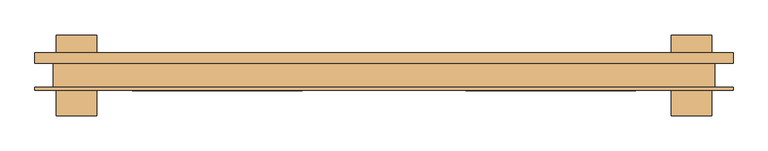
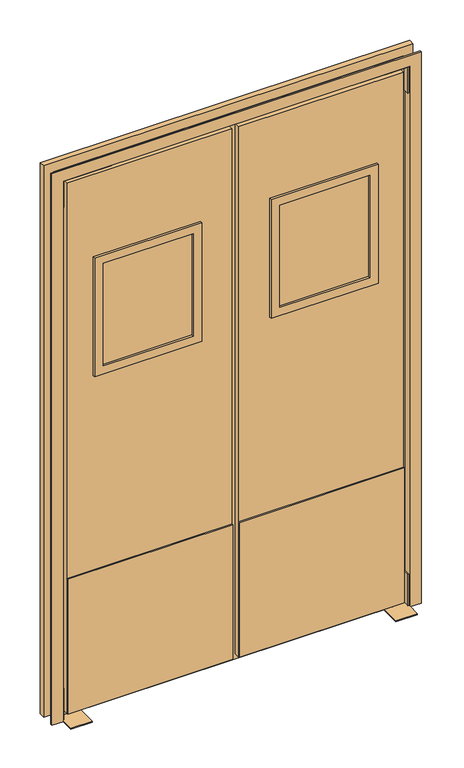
"""IFC4 building model written with IfcOpenShell, lengths in millimetres: door geometry, 両開きスイングドア_窓付_FCG : W1215xH2005xt40."""

from ifc_helpers import new_model, si_unit, point, frame, frame_2d, origin, place, context, project, spatial, polyline, circle_curve, trimmed, segment, composite_curve, outline, extrude, faceted_brep, source, transform, mapped, element, save


def door_559ab057(model_context):
    return source(origin(), model_context, "Body", "SolidModel", [
        extrude(outline(polyline([(0.0, 607.5), (2005.0, 607.5), (2005.0, -607.5), (0.0, -607.5), (0.0, 607.5)]), holes=[polyline([(20.0, 590.5), (20.0, 11.0), (1985.0, 11.0), (1985.0, 590.5), (20.0, 590.5)]), polyline([(1985.0, -11.0), (20.0, -11.0), (20.0, -590.5), (1985.0, -590.5), (1985.0, -11.0)])]), frame((0.0, -1.0, 0.0), z_axis=(0.0, 1.0, 0.0), x_axis=(0.0, 0.0, 1.0)), (0.0, 0.0, 1.0), 2.0),
        faceted_brep([(-607.5, -28.000005, 0.0), (-647.499995, -28.000005, 0.0), (-647.499995, -22.0, 0.0), (-613.5, -22.0, 0.0), (-613.5, 22.0, 0.0), (-647.499995, 22.0, 0.0), (-647.499995, 42.0, 0.0), (-607.5, 42.0, 0.0), (-607.5, -28.000005, 2005.0), (607.5, -28.000005, 2005.0), (607.5, -28.000005, 0.0), (647.499995, -28.000005, 0.0), (647.499995, -28.000005, 2044.999995), (-647.499995, -28.000005, 2044.999995), (-647.499995, -22.0, 2044.999995), (647.499995, -22.0, 2044.999995), (647.499995, -22.0, 0.0), (613.5, -22.0, 0.0), (613.5, -22.0, 2011.0), (-613.5, -22.0, 2011.0), (-613.5, 22.0, 2011.0), (613.5, 22.0, 2011.0), (613.5, 22.0, 0.0), (647.499995, 22.0, 0.0), (647.499995, 22.0, 2044.999995), (-647.499995, 22.0, 2044.999995), (-647.499995, 42.0, 2044.999995), (647.499995, 42.0, 2044.999995), (647.499995, 42.0, 0.0), (607.5, 42.0, 0.0), (607.5, 42.0, 2005.0), (-607.5, 42.0, 2005.0)], [[[0, 1, 2, 3, 4, 5, 6, 7]], [[1, 0, 8, 9, 10, 11, 12, 13]], [[2, 1, 13, 14]], [[3, 2, 14, 15, 16, 17, 18, 19]], [[4, 3, 19, 20]], [[5, 4, 20, 21, 22, 23, 24, 25]], [[6, 5, 25, 26]], [[7, 6, 26, 27, 28, 29, 30, 31]], [[0, 7, 31, 8]], [[9, 30, 29, 10]], [[10, 29, 28, 23, 22, 17, 16, 11]], [[15, 12, 11, 16]], [[21, 18, 17, 22]], [[27, 24, 23, 28]], [[20, 19, 18, 21]], [[26, 25, 24, 27]], [[8, 31, 30, 9]], [[14, 13, 12, 15]]]),
        extrude(outline(polyline([(-152.0, -20.0), (-467.0, -20.0), (-467.0, -15.0), (-152.0, -15.0), (-152.0, -20.0)])), frame((0.0, 0.0, 1270.0), z_axis=(0.0, 0.0, 1.0), x_axis=(1.0, 0.0, 0.0)), (0.0, 0.0, 1.0), 380.0),
        extrude(outline(polyline([(467.0, -20.0), (152.0, -20.0), (152.0, -15.0), (467.0, -15.0), (467.0, -20.0)])), frame((0.0, 0.0, 1270.0), z_axis=(0.0, 0.0, 1.0), x_axis=(1.0, 0.0, 0.0)), (0.0, 0.0, 1.0), 380.0),
        extrude(outline(polyline([(152.0, 20.0), (467.0, 20.0), (467.0, 15.0), (152.0, 15.0), (152.0, 20.0)])), frame((0.0, 0.0, 1270.0), z_axis=(0.0, 0.0, 1.0), x_axis=(1.0, 0.0, 0.0)), (0.0, 0.0, 1.0), 380.0),
        extrude(outline(polyline([(-467.0, 20.0), (-152.0, 20.0), (-152.0, 15.0), (-467.0, 15.0), (-467.0, 20.0)])), frame((0.0, 0.0, 1270.0), z_axis=(0.0, 0.0, 1.0), x_axis=(1.0, 0.0, 0.0)), (0.0, 0.0, 1.0), 380.0),
        extrude(outline(polyline([(1240.0, 122.0), (1240.0, 497.0), (1680.0, 497.0), (1680.0, 122.0), (1240.0, 122.0)]), holes=[polyline([(1650.0, 152.0), (1650.0, 467.0), (1270.0, 467.0), (1270.0, 152.0), (1650.0, 152.0)])]), frame((0.0, -28.0, 0.0), z_axis=(0.0, 1.0, 0.0), x_axis=(0.0, 0.0, 1.0)), (0.0, 0.0, 1.0), 56.0),
        extrude(outline(polyline([(1680.0, -122.0), (1680.0, -497.0), (1240.0, -497.0), (1240.0, -122.0), (1680.0, -122.0)]), holes=[polyline([(1270.0, -152.0), (1270.0, -467.0), (1650.0, -467.0), (1650.0, -152.0), (1270.0, -152.0)])]), frame((0.0, -28.0, 0.0), z_axis=(0.0, 1.0, 0.0), x_axis=(0.0, 0.0, 1.0)), (0.0, 0.0, 1.0), 56.0),
        extrude(outline(polyline([(1985.0, 11.0), (20.0, 11.0), (20.0, 590.5), (1985.0, 590.5), (1985.0, 11.0)]), holes=[polyline([(1240.0, 122.0), (1680.0, 122.0), (1680.0, 497.0), (1240.0, 497.0), (1240.0, 122.0)])]), frame((0.0, -20.0, 0.0), z_axis=(0.0, 1.0, 0.0), x_axis=(0.0, 0.0, 1.0)), (0.0, 0.0, 1.0), 40.0),
        extrude(outline(polyline([(1985.0, -11.0), (1985.0, -590.5), (20.0, -590.5), (20.0, -11.0), (1985.0, -11.0)]), holes=[polyline([(1240.0, -122.0), (1240.0, -497.0), (1680.0, -497.0), (1680.0, -122.0), (1240.0, -122.0)])]), frame((0.0, -20.0, 0.0), z_axis=(0.0, 1.0, 0.0), x_axis=(0.0, 0.0, 1.0)), (0.0, 0.0, 1.0), 40.0),
        extrude(outline(polyline([(2001.00012, 437.49968), (2001.00012, 603.49982), (1905.00036, 603.49982), (1905.00036, 607.5), (2005.0, 607.5), (2005.0, 437.49968), (2001.00012, 437.49968)])), frame((0.0, -25.0, 0.0), z_axis=(0.0, 1.0, 0.0), x_axis=(0.0, 0.0, 1.0)), (0.0, 0.0, 1.0), 50.0),
        extrude(outline(polyline([(2001.00012, -437.49968), (2005.0, -437.49968), (2005.0, -607.5), (1905.00036, -607.5), (1905.00036, -603.49982), (2001.00012, -603.49982), (2001.00012, -437.49968)])), frame((0.0, -25.0, 0.0), z_axis=(0.0, 1.0, 0.0), x_axis=(0.0, 0.0, 1.0)), (0.0, 0.0, 1.0), 50.0),
        extrude(outline(composite_curve([segment(trimmed(circle_curve(frame_2d((-558.999995, 0.0)), 6.5), [point((-558.999995, -6.5))], [point((-558.999995, 6.5))], False, "CARTESIAN"), True, "CONTINUOUS"), segment(trimmed(circle_curve(frame_2d((-558.999995, 0.0)), 6.5), [point((-558.999995, 6.5))], [point((-558.999995, -6.5))], False, "CARTESIAN"), True, "CONTINUOUS")], self_intersect=False)), frame((0.0, 0.0, 1985.0), z_axis=(0.0, 0.0, 1.0), x_axis=(1.0, 0.0, 0.0)), (0.0, 0.0, 1.0), 16.00012),
        extrude(outline(composite_curve([segment(trimmed(circle_curve(frame_2d((558.999995, 0.0)), 6.5), [point((558.999995, -6.5))], [point((558.999995, 6.5))], False, "CARTESIAN"), True, "CONTINUOUS"), segment(trimmed(circle_curve(frame_2d((558.999995, 0.0)), 6.5), [point((558.999995, 6.5))], [point((558.999995, -6.5))], False, "CARTESIAN"), True, "CONTINUOUS")], self_intersect=False)), frame((0.0, 0.0, 1985.0), z_axis=(0.0, 0.0, 1.0), x_axis=(1.0, 0.0, 0.0)), (0.0, 0.0, 1.0), 16.00012),
        extrude(outline(composite_curve([segment(trimmed(circle_curve(frame_2d((558.999995, 0.0)), 6.5), [point((552.499995, 0.0))], [point((565.499995, 0.0))], False, "CARTESIAN"), True, "CONTINUOUS"), segment(trimmed(circle_curve(frame_2d((558.999995, 0.0)), 6.5), [point((565.499995, 0.0))], [point((552.499995, 0.0))], False, "CARTESIAN"), True, "CONTINUOUS")], self_intersect=False)), frame((0.0, 0.0, 4.0), z_axis=(0.0, 0.0, 1.0), x_axis=(1.0, 0.0, 0.0)), (0.0, 0.0, 1.0), 16.0),
        extrude(outline(composite_curve([segment(trimmed(circle_curve(frame_2d((-558.999995, 0.0)), 6.5), [point((-565.499995, 0.0))], [point((-552.499995, 0.0))], False, "CARTESIAN"), True, "CONTINUOUS"), segment(trimmed(circle_curve(frame_2d((-558.999995, 0.0)), 6.5), [point((-552.499995, 0.0))], [point((-565.499995, 0.0))], False, "CARTESIAN"), True, "CONTINUOUS")], self_intersect=False)), frame((0.0, 0.0, 4.0), z_axis=(0.0, 0.0, 1.0), x_axis=(1.0, 0.0, 0.0)), (0.0, 0.0, 1.0), 16.0),
        faceted_brep([(603.50032, -25.0, 120.0), (603.50032, -25.0, 4.0), (607.5, -25.0, 4.0), (607.5, -25.0, 120.0), (603.50032, 25.0, 120.0), (607.5, 25.0, 120.0), (607.5, 25.0, 4.0), (603.50032, 25.0, 4.0), (607.5, -75.0, 4.0), (607.5, -75.0, 0.0), (607.5, 75.0, 0.0), (607.5, 75.0, 4.0), (532.50032, -75.0, 0.0), (532.50032, 75.0, 0.0), (532.50032, -75.0, 4.0), (532.50032, 75.0, 4.0)], [[[0, 1, 2, 3]], [[4, 5, 6, 7]], [[0, 3, 5, 4]], [[5, 3, 2, 8, 9, 10, 11, 6]], [[10, 9, 12, 13]], [[13, 12, 14, 15]], [[15, 14, 8, 2, 1, 7, 6, 11]], [[1, 0, 4, 7]], [[14, 12, 9, 8]], [[15, 11, 10, 13]]]),
        faceted_brep([(-603.50032, -25.0, 120.0), (-607.5, -25.0, 120.0), (-607.5, -25.0, 4.0), (-603.50032, -25.0, 4.0), (-603.50032, 25.0, 120.0), (-603.50032, 25.0, 4.0), (-607.5, 25.0, 4.0), (-607.5, 25.0, 120.0), (-607.5, 75.0, 4.0), (-607.5, 75.0, 0.0), (-607.5, -75.0, 0.0), (-607.5, -75.0, 4.0), (-532.50032, 75.0, 0.0), (-532.50032, -75.0, 0.0), (-532.50032, 75.0, 4.0), (-532.50032, -75.0, 4.0)], [[[0, 1, 2, 3]], [[4, 5, 6, 7]], [[1, 0, 4, 7]], [[1, 7, 6, 8, 9, 10, 11, 2]], [[10, 9, 12, 13]], [[13, 12, 14, 15]], [[15, 14, 8, 6, 5, 3, 2, 11]], [[0, 3, 5, 4]], [[15, 11, 10, 13]], [[14, 12, 9, 8]]]),
        extrude(outline(polyline([(-11.0, 20.0), (-590.5, 20.0), (-590.5, 25.0), (-11.0, 25.0), (-11.0, 20.0)])), frame((0.0, 0.0, 20.0), z_axis=(0.0, 0.0, 1.0), x_axis=(1.0, 0.0, 0.0)), (0.0, 0.0, 1.0), 500.0),
        extrude(outline(polyline([(590.5, 20.0), (11.0, 20.0), (11.0, 25.0), (590.5, 25.0), (590.5, 20.0)])), frame((0.0, 0.0, 20.0), z_axis=(0.0, 0.0, 1.0), x_axis=(1.0, 0.0, 0.0)), (0.0, 0.0, 1.0), 500.0),
        extrude(outline(polyline([(-590.5, -20.0), (-11.0, -20.0), (-11.0, -25.0), (-590.5, -25.0), (-590.5, -20.0)])), frame((0.0, 0.0, 20.0), z_axis=(0.0, 0.0, 1.0), x_axis=(1.0, 0.0, 0.0)), (0.0, 0.0, 1.0), 500.0),
        extrude(outline(polyline([(11.0, -20.0), (590.5, -20.0), (590.5, -25.0), (11.0, -25.0), (11.0, -20.0)])), frame((0.0, 0.0, 20.0), z_axis=(0.0, 0.0, 1.0), x_axis=(1.0, 0.0, 0.0)), (0.0, 0.0, 1.0), 500.0),
    ])


if __name__ == "__main__":
    model = new_model("IFC4")
    model_context = context("Model", 3, world=origin())
    ifc_project = project(units=[si_unit("LENGTHUNIT", "METRE", prefix="MILLI")], contexts=[model_context])
    site = spatial("IfcSite", under=ifc_project)
    building = spatial("IfcBuilding", under=site)
    placement = place(None, origin())
    door_shape = door_559ab057(model_context)
    element("IfcDoor", 1, ObjectType="両開きスイングドア_窓付_FCG : W1215xH2005xt40", at=placement, inside=building, context=model_context, shape_type="MappedRepresentation", body=[
        mapped(door_shape, transform((0.0, 0.0, 0.0), x_axis=(1.0, 0.0, 0.0), y_axis=(0.0, 1.0, 0.0), z_axis=(0.0, 0.0, 1.0))),
    ])
    save(model, "model.ifc")
